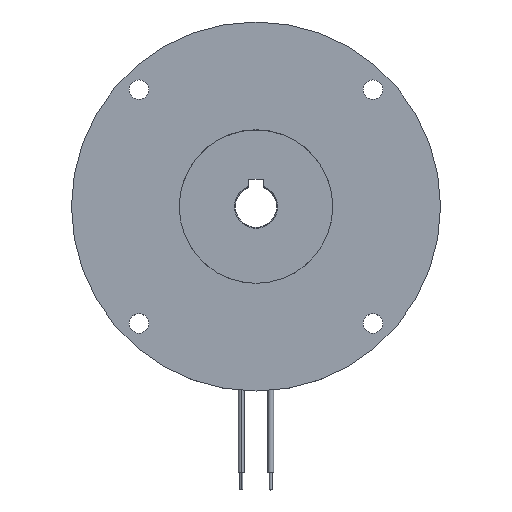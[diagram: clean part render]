
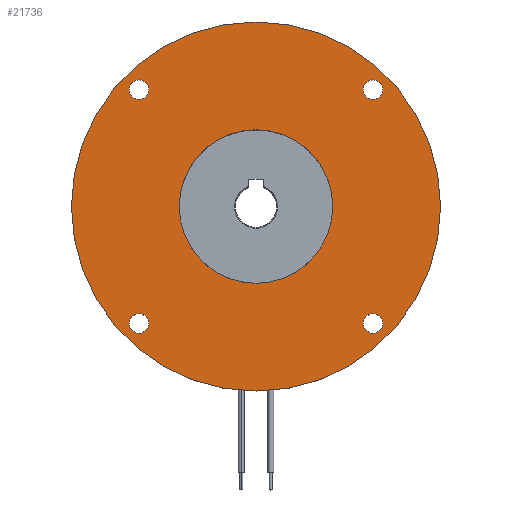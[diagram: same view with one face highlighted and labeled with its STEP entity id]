
A CAD part, top view. The second image highlights one B-rep face of the part: STEP entity #21736.
In plain terms, the highlighted planar face has unit normal (0, 0, 1).
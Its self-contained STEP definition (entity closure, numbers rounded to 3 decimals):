
#25 = EDGE_LOOP ( 'NONE', ( #14079, #19145 ) ) ;
#50 = VERTEX_POINT ( 'NONE', #10995 ) ;
#165 = CARTESIAN_POINT ( 'NONE',  ( 0., 0., 0. ) ) ;
#233 = EDGE_CURVE ( 'NONE', #21182, #594, #14486, .T. ) ;
#363 = EDGE_LOOP ( 'NONE', ( #3930, #5362 ) ) ;
#405 = VERTEX_POINT ( 'NONE', #2309 ) ;
#594 = VERTEX_POINT ( 'NONE', #21758 ) ;
#676 = CIRCLE ( 'NONE', #16476, 3.3 ) ;
#1561 = VERTEX_POINT ( 'NONE', #12356 ) ;
#1753 = CARTESIAN_POINT ( 'NONE',  ( -39.598, -39.598, 0. ) ) ;
#1830 = ORIENTED_EDGE ( 'NONE', *, *, #10313, .T. ) ;
#2000 = CARTESIAN_POINT ( 'NONE',  ( 39.598, -39.598, 0. ) ) ;
#2213 = PLANE ( 'NONE',  #8156 ) ;
#2309 = CARTESIAN_POINT ( 'NONE',  ( 36.298, 39.598, 0. ) ) ;
#2411 = ORIENTED_EDGE ( 'NONE', *, *, #233, .T. ) ;
#2891 = AXIS2_PLACEMENT_3D ( 'NONE', #8341, #16074, #7818 ) ;
#3024 = CIRCLE ( 'NONE', #6279, 3.3 ) ;
#3066 = EDGE_LOOP ( 'NONE', ( #12858, #11016 ) ) ;
#3351 = CIRCLE ( 'NONE', #17535, 3.3 ) ;
#3617 = CARTESIAN_POINT ( 'NONE',  ( 0., 0., 0. ) ) ;
#3661 = DIRECTION ( 'NONE',  ( 0., 0., -1. ) ) ;
#3891 = ORIENTED_EDGE ( 'NONE', *, *, #4744, .T. ) ;
#3924 = EDGE_CURVE ( 'NONE', #23562, #16897, #15844, .T. ) ;
#3930 = ORIENTED_EDGE ( 'NONE', *, *, #4065, .T. ) ;
#3980 = CARTESIAN_POINT ( 'NONE',  ( 0., 62.5, 0. ) ) ;
#4065 = EDGE_CURVE ( 'NONE', #405, #19602, #17468, .T. ) ;
#4129 = VERTEX_POINT ( 'NONE', #7448 ) ;
#4744 = EDGE_CURVE ( 'NONE', #23683, #1561, #5593, .T. ) ;
#5182 = ORIENTED_EDGE ( 'NONE', *, *, #23718, .T. ) ;
#5362 = ORIENTED_EDGE ( 'NONE', *, *, #15599, .T. ) ;
#5398 = DIRECTION ( 'NONE',  ( -1., 0., 0. ) ) ;
#5593 = CIRCLE ( 'NONE', #13314, 3.3 ) ;
#5774 = DIRECTION ( 'NONE',  ( 0., 0., -1. ) ) ;
#6279 = AXIS2_PLACEMENT_3D ( 'NONE', #8077, #18106, #8467 ) ;
#7448 = CARTESIAN_POINT ( 'NONE',  ( 42.898, -39.598, 0. ) ) ;
#7674 = DIRECTION ( 'NONE',  ( 0., 0., -1. ) ) ;
#7735 = CARTESIAN_POINT ( 'NONE',  ( -39.598, 39.598, 0. ) ) ;
#7818 = DIRECTION ( 'NONE',  ( -1., 0., 0. ) ) ;
#7907 = ORIENTED_EDGE ( 'NONE', *, *, #14198, .T. ) ;
#7929 = DIRECTION ( 'NONE',  ( 0., 0., -1. ) ) ;
#7979 = CARTESIAN_POINT ( 'NONE',  ( 42.898, 39.598, 0. ) ) ;
#8077 = CARTESIAN_POINT ( 'NONE',  ( 39.598, 39.598, 0. ) ) ;
#8156 = AXIS2_PLACEMENT_3D ( 'NONE', #3980, #7674, #15427 ) ;
#8341 = CARTESIAN_POINT ( 'NONE',  ( 0., 0., 0. ) ) ;
#8467 = DIRECTION ( 'NONE',  ( -1., 0., 0. ) ) ;
#8513 = EDGE_LOOP ( 'NONE', ( #1830, #7907 ) ) ;
#8527 = CARTESIAN_POINT ( 'NONE',  ( 62.5, 0., 0. ) ) ;
#9099 = CARTESIAN_POINT ( 'NONE',  ( -42.898, 39.598, 0. ) ) ;
#9370 = EDGE_CURVE ( 'NONE', #1561, #23683, #23604, .T. ) ;
#9452 = FACE_BOUND ( 'NONE', #8513, .T. ) ;
#9540 = EDGE_CURVE ( 'NONE', #50, #10261, #10612, .T. ) ;
#9763 = AXIS2_PLACEMENT_3D ( 'NONE', #1753, #3661, #13329 ) ;
#9916 = EDGE_LOOP ( 'NONE', ( #3891, #18000 ) ) ;
#9926 = CIRCLE ( 'NONE', #15168, 26. ) ;
#10261 = VERTEX_POINT ( 'NONE', #8527 ) ;
#10306 = DIRECTION ( 'NONE',  ( 0., 0., -1. ) ) ;
#10313 = EDGE_CURVE ( 'NONE', #16434, #4129, #18999, .T. ) ;
#10376 = CARTESIAN_POINT ( 'NONE',  ( 36.298, -39.598, 0. ) ) ;
#10612 = CIRCLE ( 'NONE', #2891, 62.5 ) ;
#10692 = DIRECTION ( 'NONE',  ( -1., 0., 0. ) ) ;
#10738 = DIRECTION ( 'NONE',  ( 0., 0., -1. ) ) ;
#10995 = CARTESIAN_POINT ( 'NONE',  ( -62.5, 0., 0. ) ) ;
#11016 = ORIENTED_EDGE ( 'NONE', *, *, #11269, .T. ) ;
#11269 = EDGE_CURVE ( 'NONE', #16897, #23562, #3351, .T. ) ;
#11877 = FACE_BOUND ( 'NONE', #9916, .T. ) ;
#12002 = DIRECTION ( 'NONE',  ( -1., 0., 0. ) ) ;
#12231 = AXIS2_PLACEMENT_3D ( 'NONE', #13987, #10306, #10692 ) ;
#12270 = DIRECTION ( 'NONE',  ( -1., 0., 0. ) ) ;
#12356 = CARTESIAN_POINT ( 'NONE',  ( -36.298, 39.598, 0. ) ) ;
#12630 = EDGE_CURVE ( 'NONE', #10261, #50, #23698, .T. ) ;
#12858 = ORIENTED_EDGE ( 'NONE', *, *, #3924, .T. ) ;
#13214 = CARTESIAN_POINT ( 'NONE',  ( -39.598, -39.598, 0. ) ) ;
#13278 = FACE_OUTER_BOUND ( 'NONE', #25, .T. ) ;
#13314 = AXIS2_PLACEMENT_3D ( 'NONE', #7735, #23267, #15616 ) ;
#13329 = DIRECTION ( 'NONE',  ( -1., 0., 0. ) ) ;
#13332 = DIRECTION ( 'NONE',  ( -1., 0., 0. ) ) ;
#13987 = CARTESIAN_POINT ( 'NONE',  ( -39.598, 39.598, 0. ) ) ;
#14079 = ORIENTED_EDGE ( 'NONE', *, *, #9540, .F. ) ;
#14177 = DIRECTION ( 'NONE',  ( -1., 0., 0. ) ) ;
#14198 = EDGE_CURVE ( 'NONE', #4129, #16434, #676, .T. ) ;
#14486 = CIRCLE ( 'NONE', #17708, 26. ) ;
#15168 = AXIS2_PLACEMENT_3D ( 'NONE', #3617, #5774, #5398 ) ;
#15427 = DIRECTION ( 'NONE',  ( -1., 0., 0. ) ) ;
#15599 = EDGE_CURVE ( 'NONE', #19602, #405, #3024, .T. ) ;
#15616 = DIRECTION ( 'NONE',  ( -1., 0., 0. ) ) ;
#15677 = FACE_BOUND ( 'NONE', #23213, .T. ) ;
#15814 = CARTESIAN_POINT ( 'NONE',  ( 39.598, -39.598, 0. ) ) ;
#15844 = CIRCLE ( 'NONE', #9763, 3.3 ) ;
#15859 = DIRECTION ( 'NONE',  ( -1., 0., 0. ) ) ;
#16074 = DIRECTION ( 'NONE',  ( 0., 0., -1. ) ) ;
#16434 = VERTEX_POINT ( 'NONE', #10376 ) ;
#16476 = AXIS2_PLACEMENT_3D ( 'NONE', #15814, #20006, #12270 ) ;
#16897 = VERTEX_POINT ( 'NONE', #22150 ) ;
#17452 = FACE_BOUND ( 'NONE', #3066, .T. ) ;
#17468 = CIRCLE ( 'NONE', #22368, 3.3 ) ;
#17535 = AXIS2_PLACEMENT_3D ( 'NONE', #13214, #20948, #13332 ) ;
#17708 = AXIS2_PLACEMENT_3D ( 'NONE', #165, #7929, #12002 ) ;
#17760 = DIRECTION ( 'NONE',  ( 0., 0., -1. ) ) ;
#18000 = ORIENTED_EDGE ( 'NONE', *, *, #9370, .T. ) ;
#18106 = DIRECTION ( 'NONE',  ( 0., 0., -1. ) ) ;
#18383 = AXIS2_PLACEMENT_3D ( 'NONE', #22310, #10738, #14177 ) ;
#18999 = CIRCLE ( 'NONE', #19393, 3.3 ) ;
#19145 = ORIENTED_EDGE ( 'NONE', *, *, #12630, .F. ) ;
#19393 = AXIS2_PLACEMENT_3D ( 'NONE', #2000, #17760, #15859 ) ;
#19602 = VERTEX_POINT ( 'NONE', #7979 ) ;
#20006 = DIRECTION ( 'NONE',  ( 0., 0., -1. ) ) ;
#20948 = DIRECTION ( 'NONE',  ( 0., 0., -1. ) ) ;
#21182 = VERTEX_POINT ( 'NONE', #21589 ) ;
#21589 = CARTESIAN_POINT ( 'NONE',  ( 26., 0., 0. ) ) ;
#21736 = ADVANCED_FACE ( 'NONE', ( #23331, #9452, #17452, #11877, #13278, #15677 ), #2213, .F. ) ;
#21758 = CARTESIAN_POINT ( 'NONE',  ( -26., 0., 0. ) ) ;
#22150 = CARTESIAN_POINT ( 'NONE',  ( -36.298, -39.598, 0. ) ) ;
#22310 = CARTESIAN_POINT ( 'NONE',  ( 0., 0., 0. ) ) ;
#22368 = AXIS2_PLACEMENT_3D ( 'NONE', #24534, #24778, #24665 ) ;
#22584 = CARTESIAN_POINT ( 'NONE',  ( -42.898, -39.598, 0. ) ) ;
#23213 = EDGE_LOOP ( 'NONE', ( #5182, #2411 ) ) ;
#23267 = DIRECTION ( 'NONE',  ( 0., 0., -1. ) ) ;
#23331 = FACE_BOUND ( 'NONE', #363, .T. ) ;
#23562 = VERTEX_POINT ( 'NONE', #22584 ) ;
#23604 = CIRCLE ( 'NONE', #12231, 3.3 ) ;
#23683 = VERTEX_POINT ( 'NONE', #9099 ) ;
#23698 = CIRCLE ( 'NONE', #18383, 62.5 ) ;
#23718 = EDGE_CURVE ( 'NONE', #594, #21182, #9926, .T. ) ;
#24534 = CARTESIAN_POINT ( 'NONE',  ( 39.598, 39.598, 0. ) ) ;
#24665 = DIRECTION ( 'NONE',  ( -1., 0., 0. ) ) ;
#24778 = DIRECTION ( 'NONE',  ( 0., 0., -1. ) ) ;
